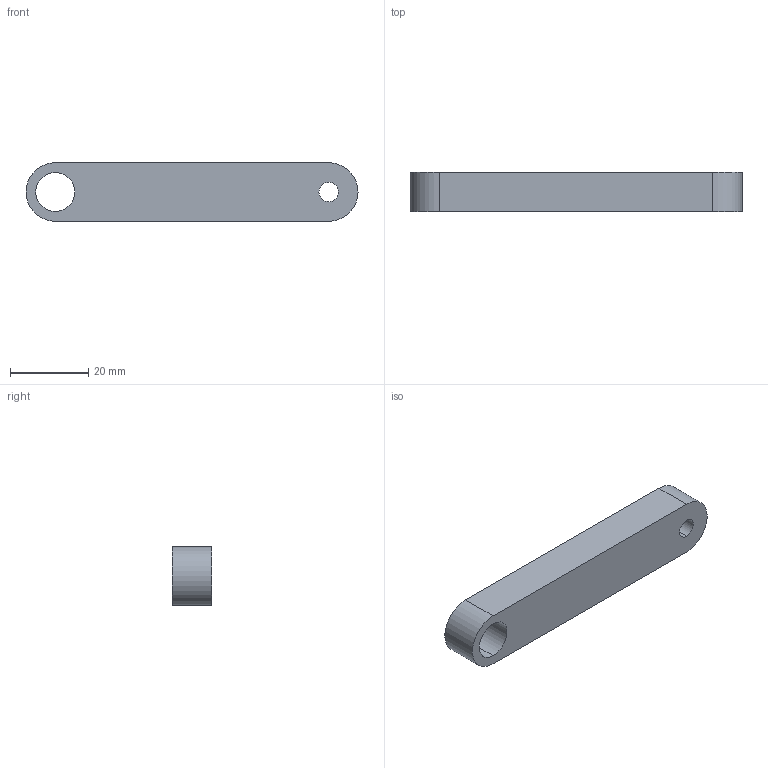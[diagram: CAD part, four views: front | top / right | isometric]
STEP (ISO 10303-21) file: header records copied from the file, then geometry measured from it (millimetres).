
FILE_DESCRIPTION (( 'STEP AP203' ), '1' );
FILE_NAME ('R-S_Domyœlna_sldprt.STEP', '2024-05-21T11:40:27', ( '' ), ( '' ), 'SwSTEP 2.0', 'SolidWorks 2024', '' );
FILE_SCHEMA (( 'CONFIG_CONTROL_DESIGN' ));
Length unit declared in the file: millimetre
Products named in the file (1): R-S_Domyślna_sldprt
Bounding box: 85 x 10 x 15 mm (x, y, z)
Volume: 11285.4 mm3; surface area: 4599.6 mm2
Topology: 1 solids, 1 shells, 10 faces, 24 edges, 16 vertices
Faces by surface type: cylinder 6, plane 4
Entity records: 385 total; most frequent: DIRECTION 58, CARTESIAN_POINT 51, ORIENTED_EDGE 48, EDGE_CURVE 24, AXIS2_PLACEMENT_3D 23, VERTEX_POINT 16, EDGE_LOOP 14, CIRCLE 12
